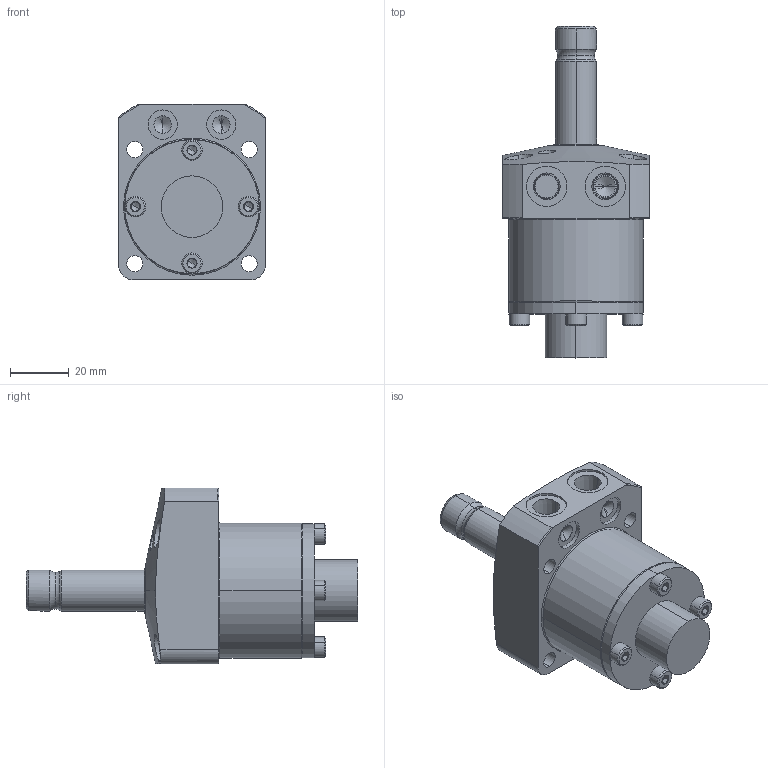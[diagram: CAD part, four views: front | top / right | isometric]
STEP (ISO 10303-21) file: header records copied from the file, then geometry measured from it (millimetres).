
FILE_DESCRIPTION (( 'STEP AP203' ), '1' );
FILE_NAME ('WHA0320-2AL-F.step', '2010-04-14T09:40:39', ( ' ' ), ( ' ' ), 'SwSTEP 2.0', 'SolidWorks 2009', '' );
FILE_SCHEMA (( 'CONFIG_CONTROL_DESIGN' ));
Length unit declared in the file: millimetre
Products named in the file (5): WHA0320-F丒郫霓; WHA0320-2AL-F; WHA0320_槭暌溒3WH100000-00; WHA0320_楓羔絻3WH100003-00; 6妏寠晅无倌_M4_10
Assembly tree (7 placements, depth 2):
  WHA0320-2AL-F
    6妏寠晅无倌_M4_10  x4
    WHA0320_楓羔絻3WH100003-00
    WHA0320-F丒郫霓
    WHA0320_槭暌溒3WH100000-00
Bounding box: 50 x 113.3 x 60 mm (x, y, z)
Volume: 128537.6 mm3; surface area: 27493.5 mm2
Topology: 7 solids, 7 shells, 276 faces, 566 edges, 318 vertices
Faces by surface type: cylinder 97, plane 95, cone 74, torus 10
Entity records: 6254 total; most frequent: CARTESIAN_POINT 1552, DIRECTION 927, ORIENTED_EDGE 792, EDGE_CURVE 396, AXIS2_PLACEMENT_3D 388, VERTEX_POINT 243, EDGE_LOOP 225, CIRCLE 195
